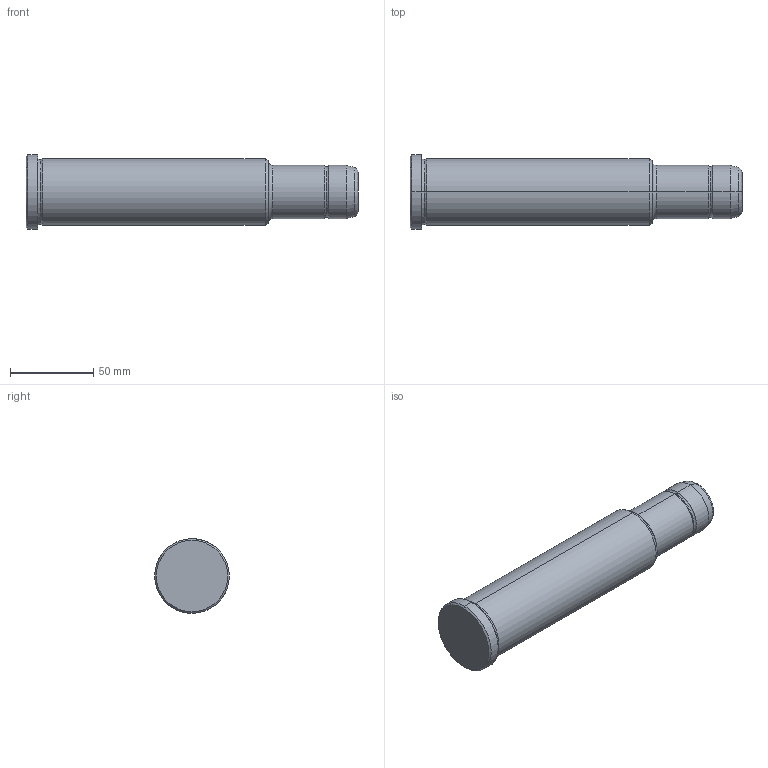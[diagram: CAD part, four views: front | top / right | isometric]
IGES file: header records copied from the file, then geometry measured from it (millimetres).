
Start section: START RECORD GO HERE.
Global section: file name: 351-32X146X200.igs; native system: DASSAULT SYSTEMES CATIA V5 R20 - www.3ds.com; preprocessor: CATIA Version 5 Release 20 ; author: Utente; organization: NB04-ASUS; date: 20210915.142111; units: millimetre
Bounding box: 200 x 45 x 45 mm (x, y, z)
Surface area: 26583.2 mm2 (no closed solid volume)
Topology: 0 solids, 0 shells, 30 faces, 172 edges, 172 vertices
Faces by surface type: revolution 26, plane 4
